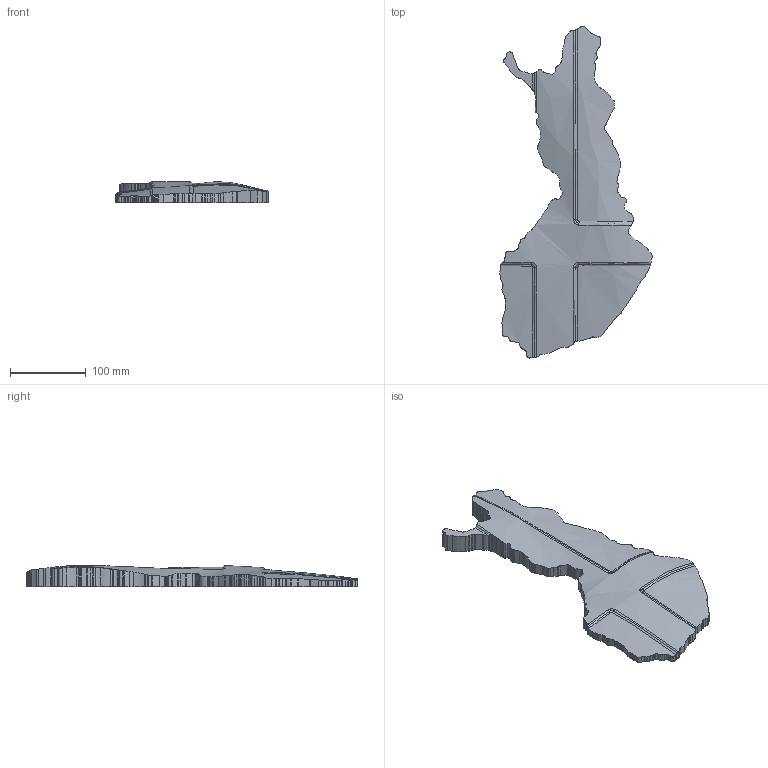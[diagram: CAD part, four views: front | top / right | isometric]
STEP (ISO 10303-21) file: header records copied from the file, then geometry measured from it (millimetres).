
FILE_DESCRIPTION((''),'2;1');
FILE_NAME('C:\Users\User\Desktop\suomi100_v2.stp','2017-09-11T23:38:02',(''),(''),'STEP Write','Mastercam 2017 ... CNC Software, Inc.','');
FILE_SCHEMA(('AUTOMOTIVE_DESIGN'));
Length unit declared in the file: millimetre
Products named in the file (1): None
Bounding box: 201.23 x 438.9 x 27.77 mm (x, y, z)
Volume: 980900.6 mm3; surface area: 119992.4 mm2
Topology: 1 solids, 1 shells, 347 faces, 1029 edges, 684 vertices
Faces by surface type: cylinder 225, plane 97, bspline 25
Entity records: 17271 total; most frequent: CARTESIAN_POINT 8219, ORIENTED_EDGE 2058, DIRECTION 1535, EDGE_CURVE 1029, VERTEX_POINT 684, AXIS2_PLACEMENT_3D 559, VECTOR 417, LINE 417
